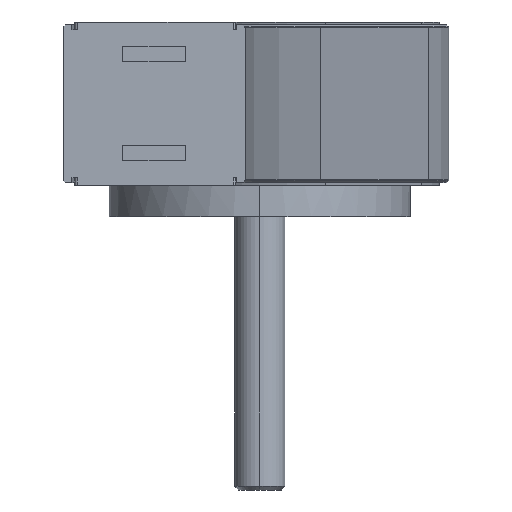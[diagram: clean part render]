
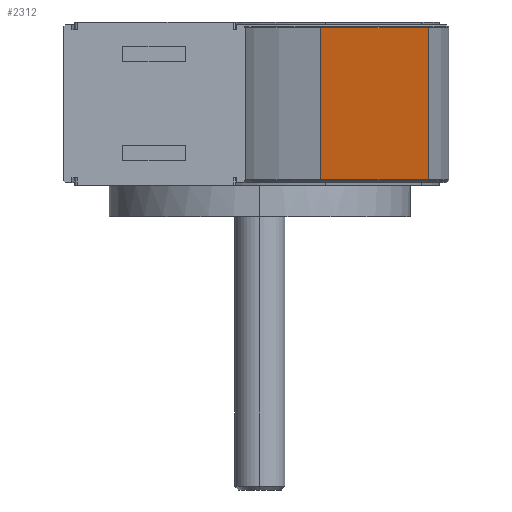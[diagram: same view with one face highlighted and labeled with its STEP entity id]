
A CAD part, left-side view. The second image highlights one B-rep face of the part: STEP entity #2312.
In plain terms, the highlighted planar face has unit normal (-0.457, -0.889, 0).
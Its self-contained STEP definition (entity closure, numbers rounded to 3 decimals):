
#122 = CARTESIAN_POINT ( 'NONE',  ( -33.596, -67.021, 30.293 ) ) ;
#232 = CARTESIAN_POINT ( 'NONE',  ( -116.784, -24.281, -30.293 ) ) ;
#602 = EDGE_LOOP ( 'NONE', ( #8791, #10268, #3882, #8386 ) ) ;
#1190 = DIRECTION ( 'NONE',  ( -0.889, 0.457, 0. ) ) ;
#1262 = EDGE_CURVE ( 'NONE', #8513, #4146, #10431, .T. ) ;
#2009 = VECTOR ( 'NONE', #6155, 1000. ) ;
#2061 = CARTESIAN_POINT ( 'NONE',  ( -116.784, -24.281, 30.293 ) ) ;
#2312 = ADVANCED_FACE ( 'NONE', ( #4030 ), #3798, .T. ) ;
#2546 = LINE ( 'NONE', #122, #2009 ) ;
#2705 = LINE ( 'NONE', #9946, #5470 ) ;
#2967 = DIRECTION ( 'NONE',  ( 0., 0., 1. ) ) ;
#2975 = DIRECTION ( 'NONE',  ( -0.457, -0.889, 0. ) ) ;
#3798 = PLANE ( 'NONE',  #3982 ) ;
#3882 = ORIENTED_EDGE ( 'NONE', *, *, #5700, .F. ) ;
#3982 = AXIS2_PLACEMENT_3D ( 'NONE', #7350, #2975, #9992 ) ;
#4030 = FACE_OUTER_BOUND ( 'NONE', #602, .T. ) ;
#4146 = VERTEX_POINT ( 'NONE', #11252 ) ;
#4580 = CARTESIAN_POINT ( 'NONE',  ( -33.596, -67.021, -30.293 ) ) ;
#5470 = VECTOR ( 'NONE', #1190, 1000. ) ;
#5471 = CARTESIAN_POINT ( 'NONE',  ( -116.784, -24.281, 30.293 ) ) ;
#5700 = EDGE_CURVE ( 'NONE', #5985, #8023, #6481, .T. ) ;
#5985 = VERTEX_POINT ( 'NONE', #232 ) ;
#6136 = DIRECTION ( 'NONE',  ( 0., 0., 1. ) ) ;
#6155 = DIRECTION ( 'NONE',  ( -0.889, 0.457, 0. ) ) ;
#6481 = LINE ( 'NONE', #2061, #10028 ) ;
#7350 = CARTESIAN_POINT ( 'NONE',  ( -33.596, -67.021, 30.293 ) ) ;
#8023 = VERTEX_POINT ( 'NONE', #5471 ) ;
#8236 = VECTOR ( 'NONE', #6136, 1000. ) ;
#8349 = EDGE_CURVE ( 'NONE', #4146, #8023, #2546, .T. ) ;
#8386 = ORIENTED_EDGE ( 'NONE', *, *, #10262, .F. ) ;
#8513 = VERTEX_POINT ( 'NONE', #4580 ) ;
#8791 = ORIENTED_EDGE ( 'NONE', *, *, #1262, .T. ) ;
#9946 = CARTESIAN_POINT ( 'NONE',  ( -33.596, -67.021, -30.293 ) ) ;
#9992 = DIRECTION ( 'NONE',  ( 0.889, -0.457, 0. ) ) ;
#10028 = VECTOR ( 'NONE', #2967, 1000. ) ;
#10262 = EDGE_CURVE ( 'NONE', #8513, #5985, #2705, .T. ) ;
#10268 = ORIENTED_EDGE ( 'NONE', *, *, #8349, .T. ) ;
#10431 = LINE ( 'NONE', #11267, #8236 ) ;
#11252 = CARTESIAN_POINT ( 'NONE',  ( -33.596, -67.021, 30.293 ) ) ;
#11267 = CARTESIAN_POINT ( 'NONE',  ( -33.596, -67.021, 30.293 ) ) ;
